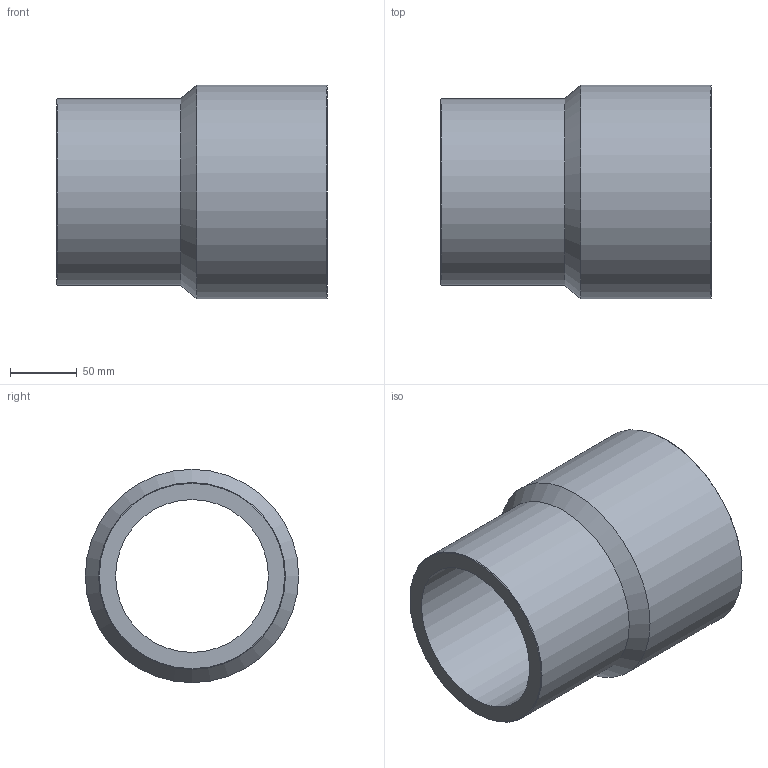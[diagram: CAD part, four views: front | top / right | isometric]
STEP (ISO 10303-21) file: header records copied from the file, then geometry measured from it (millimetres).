
FILE_DESCRIPTION(/* description */ ('Unknown'),/* implementation_level */ '2;1');
FILE_NAME(/* name */ 'RP160140C',/* time_stamp */ '2021-09-17T15:17:09+02:00',/* author */ ('Unknown'),/* organization */ ('Unknown'),/* preprocessor_version */ 'ST-DEVELOPER v16.7',/* originating_system */ 'Solid Edge',/* authorisation */ 'Unknown');
FILE_SCHEMA (('AUTOMOTIVE_DESIGN {1 0 10303 214 3 1 1}'));
Length unit declared in the file: millimetre
Products named in the file (1): RP160140C
Bounding box: 203 x 160 x 160 mm (x, y, z)
Volume: 1219529.9 mm3; surface area: 187885.9 mm2
Topology: 1 solids, 1 shells, 10 faces, 19 edges, 11 vertices
Faces by surface type: cylinder 4, cone 4, plane 2
Full cylindrical faces by diameter (mm): 114.6 x1, 130.8 x1, 140 x1, 160 x1
Entity records: 238 total; most frequent: DIRECTION 42, CARTESIAN_POINT 31, AXIS2_PLACEMENT_3D 21, ORIENTED_EDGE 20, EDGE_LOOP 20, FACE_BOUND 20, EDGE_CURVE 10, VERTEX_POINT 10
